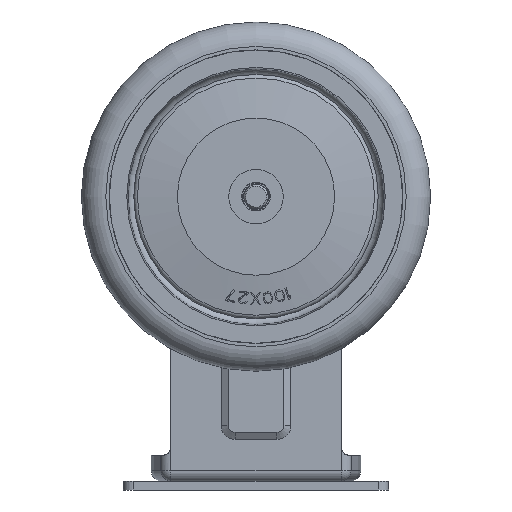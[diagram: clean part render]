
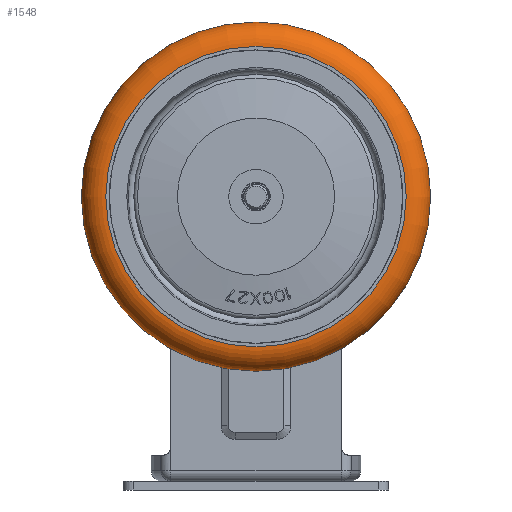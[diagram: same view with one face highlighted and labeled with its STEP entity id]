
A CAD part, left-side view. The second image highlights one B-rep face of the part: STEP entity #1548.
In plain terms, the highlighted toroidal (fillet/blend) face has major radius 43 mm and minor radius 7 mm.
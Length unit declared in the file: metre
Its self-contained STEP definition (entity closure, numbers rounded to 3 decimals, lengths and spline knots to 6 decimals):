
#1548=ADVANCED_FACE('',(#4374,#4375),#4376,.T.);
#4374=FACE_OUTER_BOUND('',#7615,.T.);
#4375=FACE_OUTER_BOUND('',#7616,.T.);
#4376=TOROIDAL_SURFACE('',#7617,0.043,0.007);
#7615=EDGE_LOOP('',(#20624));
#7616=EDGE_LOOP('',(#20625));
#7617=AXIS2_PLACEMENT_3D('',#20626,#20627,#20628);
#20624=ORIENTED_EDGE('',*,*,#26722,.F.);
#20625=ORIENTED_EDGE('',*,*,#26723,.F.);
#20626=CARTESIAN_POINT('',(0.0,0.0,0.0065));
#20627=DIRECTION('',(0.0,0.0,-1.0));
#20628=DIRECTION('',(1.0,0.0,0.0));
#26722=EDGE_CURVE('',#33142,#33142,#33143,.T.);
#26723=EDGE_CURVE('',#33144,#33144,#33145,.T.);
#33142=VERTEX_POINT('',#44069);
#33143=CIRCLE('',#44070,0.043);
#33144=VERTEX_POINT('',#44071);
#33145=CIRCLE('',#44072,0.05);
#44069=CARTESIAN_POINT('',(-0.043,0.0,0.0135));
#44070=AXIS2_PLACEMENT_3D('',#54836,#54837,#54838);
#44071=CARTESIAN_POINT('',(-0.05,0.0,0.0065));
#44072=AXIS2_PLACEMENT_3D('',#54839,#54840,#54841);
#54836=CARTESIAN_POINT('',(0.0,0.0,0.0135));
#54837=DIRECTION('',(0.0,0.0,1.0));
#54838=DIRECTION('',(-1.0,0.0,0.0));
#54839=CARTESIAN_POINT('',(0.0,0.0,0.0065));
#54840=DIRECTION('',(0.0,0.0,-1.0));
#54841=DIRECTION('',(-1.0,0.0,0.0));
